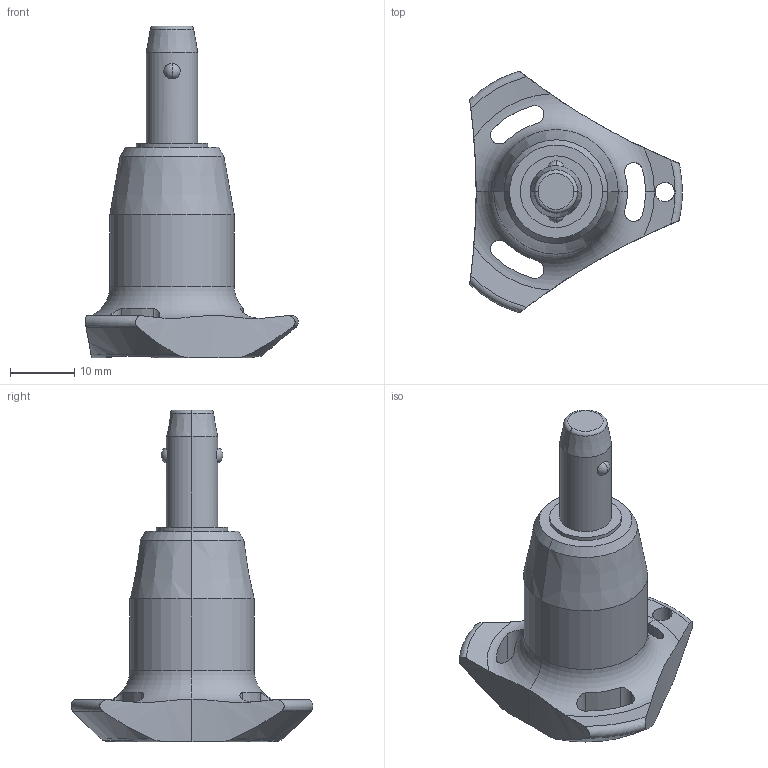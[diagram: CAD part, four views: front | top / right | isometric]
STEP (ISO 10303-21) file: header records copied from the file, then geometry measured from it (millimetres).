
FILE_DESCRIPTION (( 'STEP AP203' ), '1' );
FILE_NAME ('QR1704.M08-010-S.step', '2025-11-12T09:08:50', ( '' ), ( '' ), 'SwSTEP 2.0', 'SolidWorks 2019', '' );
FILE_SCHEMA (( 'CONFIG_CONTROL_DESIGN' ));
Length unit declared in the file: millimetre
Products named in the file (1): QR1704.M08-010-S
Bounding box: 33 x 37.51 x 51.5 mm (x, y, z)
Volume: 11152.9 mm3; surface area: 4305.9 mm2
Topology: 1 solids, 1 shells, 65 faces, 174 edges, 109 vertices
Faces by surface type: cylinder 30, cone 14, torus 11, sphere 6, plane 4
Entity records: 2746 total; most frequent: CARTESIAN_POINT 1073, ORIENTED_EDGE 348, DIRECTION 331, EDGE_CURVE 174, AXIS2_PLACEMENT_3D 147, VERTEX_POINT 109, CIRCLE 81, EDGE_LOOP 71
